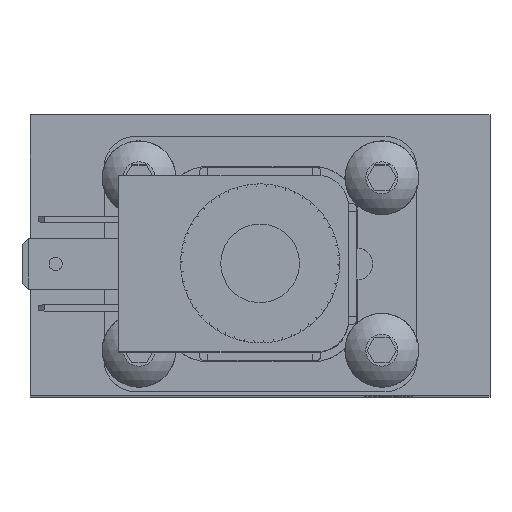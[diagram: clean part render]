
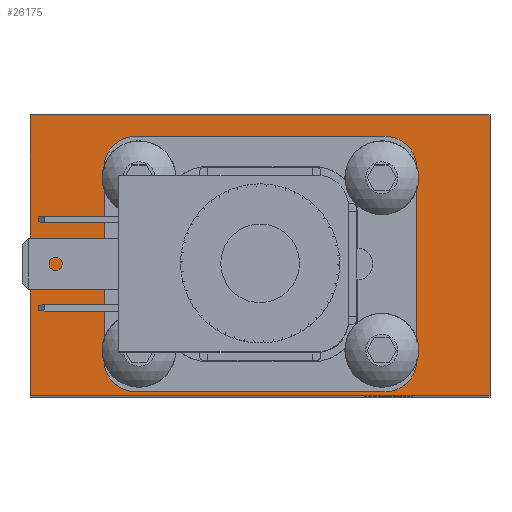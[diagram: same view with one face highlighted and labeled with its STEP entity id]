
A CAD part, top view. The second image highlights one B-rep face of the part: STEP entity #26175.
In plain terms, the highlighted planar face has unit normal (0, 0, 1).
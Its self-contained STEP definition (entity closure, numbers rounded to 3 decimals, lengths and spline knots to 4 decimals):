
#819=LINE('',#39742,#2659);
#820=LINE('',#39744,#2660);
#821=LINE('',#39746,#2661);
#822=LINE('',#39747,#2662);
#823=LINE('',#39752,#2663);
#824=LINE('',#39756,#2664);
#825=LINE('',#39760,#2665);
#826=LINE('',#39763,#2666);
#2659=VECTOR('',#31596,5.715);
#2660=VECTOR('',#31597,3.4925);
#2661=VECTOR('',#31598,5.715);
#2662=VECTOR('',#31599,3.4925);
#2663=VECTOR('',#31602,3.08);
#2664=VECTOR('',#31605,2.35);
#2665=VECTOR('',#31608,3.08);
#2666=VECTOR('',#31611,2.35);
#4806=PLANE('',#28005);
#5473=FACE_BOUND('',#7726,.T.);
#6098=FACE_OUTER_BOUND('',#7725,.T.);
#7725=EDGE_LOOP('',(#18038,#18039,#18040,#18041));
#7726=EDGE_LOOP('',(#18042,#18043,#18044,#18045,#18046,#18047,#18048,#18049));
#9694=CIRCLE('',#28006,0.4);
#9695=CIRCLE('',#28007,0.4);
#9696=CIRCLE('',#28008,0.4);
#9697=CIRCLE('',#28009,0.4);
#11221=VERTEX_POINT('',#39740);
#11222=VERTEX_POINT('',#39741);
#11223=VERTEX_POINT('',#39743);
#11224=VERTEX_POINT('',#39745);
#11225=VERTEX_POINT('',#39748);
#11226=VERTEX_POINT('',#39749);
#11227=VERTEX_POINT('',#39751);
#11228=VERTEX_POINT('',#39753);
#11229=VERTEX_POINT('',#39755);
#11230=VERTEX_POINT('',#39757);
#11231=VERTEX_POINT('',#39759);
#11232=VERTEX_POINT('',#39761);
#13841=EDGE_CURVE('',#11221,#11222,#819,.T.);
#13842=EDGE_CURVE('',#11223,#11222,#820,.T.);
#13843=EDGE_CURVE('',#11223,#11224,#821,.T.);
#13844=EDGE_CURVE('',#11224,#11221,#822,.T.);
#13845=EDGE_CURVE('',#11225,#11226,#9694,.T.);
#13846=EDGE_CURVE('',#11225,#11227,#823,.T.);
#13847=EDGE_CURVE('',#11228,#11227,#9695,.T.);
#13848=EDGE_CURVE('',#11228,#11229,#824,.T.);
#13849=EDGE_CURVE('',#11230,#11229,#9696,.T.);
#13850=EDGE_CURVE('',#11230,#11231,#825,.T.);
#13851=EDGE_CURVE('',#11232,#11231,#9697,.T.);
#13852=EDGE_CURVE('',#11232,#11226,#826,.T.);
#18038=ORIENTED_EDGE('',*,*,#13841,.T.);
#18039=ORIENTED_EDGE('',*,*,#13842,.F.);
#18040=ORIENTED_EDGE('',*,*,#13843,.T.);
#18041=ORIENTED_EDGE('',*,*,#13844,.T.);
#18042=ORIENTED_EDGE('',*,*,#13845,.F.);
#18043=ORIENTED_EDGE('',*,*,#13846,.T.);
#18044=ORIENTED_EDGE('',*,*,#13847,.F.);
#18045=ORIENTED_EDGE('',*,*,#13848,.T.);
#18046=ORIENTED_EDGE('',*,*,#13849,.F.);
#18047=ORIENTED_EDGE('',*,*,#13850,.T.);
#18048=ORIENTED_EDGE('',*,*,#13851,.F.);
#18049=ORIENTED_EDGE('',*,*,#13852,.T.);
#26175=ADVANCED_FACE('',(#6098,#5473),#4806,.T.);
#28005=AXIS2_PLACEMENT_3D('',#39739,#31594,#31595);
#28006=AXIS2_PLACEMENT_3D('',#39750,#31600,#31601);
#28007=AXIS2_PLACEMENT_3D('',#39754,#31603,#31604);
#28008=AXIS2_PLACEMENT_3D('',#39758,#31606,#31607);
#28009=AXIS2_PLACEMENT_3D('',#39762,#31609,#31610);
#31594=DIRECTION('center_axis',(0.,0.,1.));
#31595=DIRECTION('ref_axis',(1.,0.,0.));
#31596=DIRECTION('',(-1.,0.,0.));
#31597=DIRECTION('',(0.,1.,0.));
#31598=DIRECTION('',(1.,0.,0.));
#31599=DIRECTION('',(0.,1.,0.));
#31600=DIRECTION('center_axis',(0.,0.,
1.));
#31601=DIRECTION('ref_axis',(0.707,-0.707,0.));
#31602=DIRECTION('',(-1.,0.,0.));
#31603=DIRECTION('center_axis',(0.,0.,
1.));
#31604=DIRECTION('ref_axis',(-0.707,-0.707,0.));
#31605=DIRECTION('',(0.,1.,0.));
#31606=DIRECTION('center_axis',(0.,0.,
1.));
#31607=DIRECTION('ref_axis',(-0.707,0.707,0.));
#31608=DIRECTION('',(1.,0.,0.));
#31609=DIRECTION('center_axis',(0.,0.,
1.));
#31610=DIRECTION('ref_axis',(0.707,0.707,0.));
#31611=DIRECTION('',(0.,-1.,0.));
#39739=CARTESIAN_POINT('Origin',(2.8575,0.,4.7104));
#39740=CARTESIAN_POINT('',(2.8575,3.4925,4.7104));
#39741=CARTESIAN_POINT('',(-2.8575,3.4925,4.7104));
#39742=CARTESIAN_POINT('',(-2.8575,3.4925,4.7104));
#39743=CARTESIAN_POINT('',(-2.8575,0.,4.7104));
#39744=CARTESIAN_POINT('',(-2.8575,0.,4.7104));
#39745=CARTESIAN_POINT('',(2.8575,0.,4.7104));
#39746=CARTESIAN_POINT('',(-2.8575,0.,4.7104));
#39747=CARTESIAN_POINT('',(2.8575,0.,4.7104));
#39748=CARTESIAN_POINT('',(1.54,0.0608,4.7104));
#39749=CARTESIAN_POINT('',(1.94,0.4608,4.7104));
#39750=CARTESIAN_POINT('Origin',(1.54,0.4608,4.7104));
#39751=CARTESIAN_POINT('',(-1.54,0.0608,4.7104));
#39752=CARTESIAN_POINT('',(1.94,0.0608,4.7104));
#39753=CARTESIAN_POINT('',(-1.94,0.4608,4.7104));
#39754=CARTESIAN_POINT('Origin',(-1.54,0.4608,4.7104));
#39755=CARTESIAN_POINT('',(-1.94,2.8108,4.7104));
#39756=CARTESIAN_POINT('',(-1.94,0.0608,4.7104));
#39757=CARTESIAN_POINT('',(-1.54,3.2108,4.7104));
#39758=CARTESIAN_POINT('Origin',(-1.54,2.8108,4.7104));
#39759=CARTESIAN_POINT('',(1.54,3.2108,4.7104));
#39760=CARTESIAN_POINT('',(-1.94,3.2108,4.7104));
#39761=CARTESIAN_POINT('',(1.94,2.8108,4.7104));
#39762=CARTESIAN_POINT('Origin',(1.54,2.8108,4.7104));
#39763=CARTESIAN_POINT('',(1.94,3.2108,4.7104));
